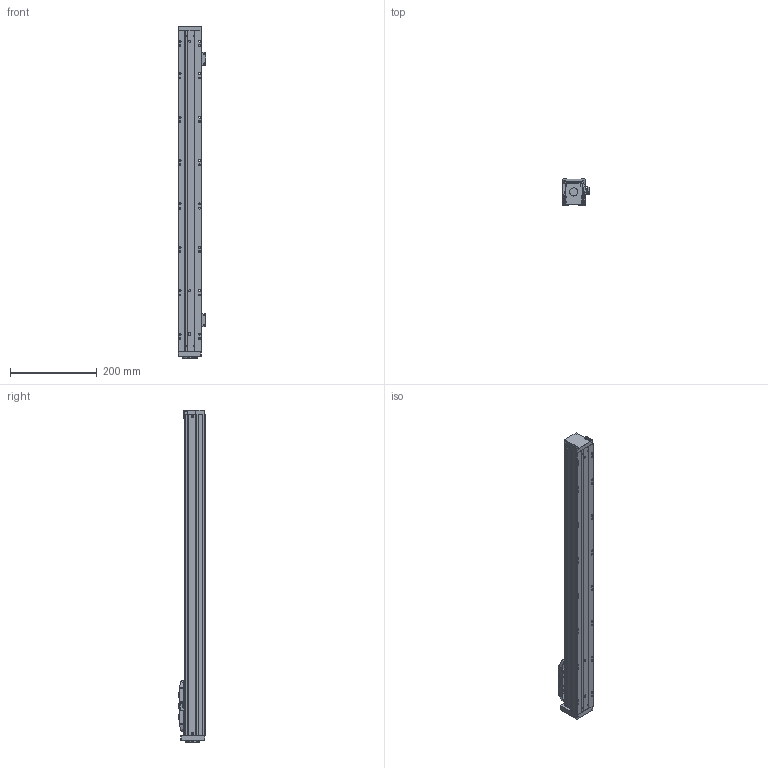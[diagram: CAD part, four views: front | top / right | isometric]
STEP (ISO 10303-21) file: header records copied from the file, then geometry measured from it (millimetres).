
FILE_DESCRIPTION (( 'STEP AP203' ), '1' );
FILE_NAME ('KTH5-L10-S600.STEP', '2019-12-19T08:26:06', ( '微软用户' ), ( '微软中国' ), 'SwSTEP 2.0', 'SolidWorks 2017', '' );
FILE_SCHEMA (( 'CONFIG_CONTROL_DESIGN' ));
Length unit declared in the file: millimetre
Products named in the file (16): ヶ裔-党蜊唳; 耜啣; 粣創釱-郔笝唳20190813; 階裔; 嫖萇羲壽諉揖え; 棠沭; EE-SX674; LES50-013癹弇菜; EE-SX674WR嫖萇羲壽假蚾啣; 詩湍; KTH5-L10-S600; 詩湍揤啣; GB╱T 70.1-2008[内六角圆柱头螺钉M4×16]_M4×16; LES50-001菁釱; GB╱T 70.2-2008[内六角平圆头螺钉M3×10]_M3×10; LES50-004賑釱
Assembly tree (31 placements, depth 2):
  KTH5-L10-S600
    LES50-001菁釱
    LES50-004賑釱
    耜啣  x2
    階裔
    棠沭  x2
    LES50-013癹弇菜  x2
    詩湍
    詩湍揤啣  x2
    GB╱T 70.1-2008[内六角圆柱头螺钉M4×16]_M4×16  x4
    GB╱T 70.2-2008[内六角平圆头螺钉M3×10]_M3×10  x8
    ヶ裔-党蜊唳
    粣創釱-郔笝唳20190813
    嫖萇羲壽諉揖え
    EE-SX674  x2
    EE-SX674WR嫖萇羲壽假蚾啣  x2
Bounding box: 64.25 x 60 x 765 mm (x, y, z)
Volume: 723557.6 mm3; surface area: 390709.6 mm2
Topology: 31 solids, 31 shells, 1417 faces, 3436 edges, 2102 vertices
Faces by surface type: plane 654, cylinder 463, cone 236, torus 36, sphere 16, bspline 12
Entity records: 32722 total; most frequent: CARTESIAN_POINT 5809, DIRECTION 5340, ORIENTED_EDGE 4932, EDGE_CURVE 2466, AXIS2_PLACEMENT_3D 1888, VERTEX_POINT 1567, VECTOR 1564, LINE 1564
